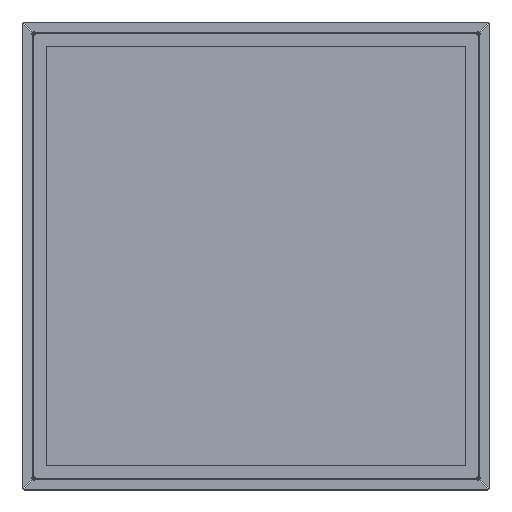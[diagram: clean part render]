
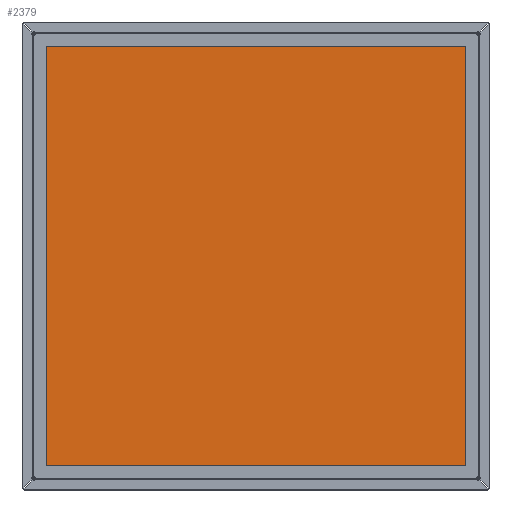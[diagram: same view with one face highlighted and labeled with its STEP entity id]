
A CAD part, top view. The second image highlights one B-rep face of the part: STEP entity #2379.
In plain terms, the highlighted planar face has unit normal (0, 0, 1).
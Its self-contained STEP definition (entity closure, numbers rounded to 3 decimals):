
#235=FACE_OUTER_BOUND('',#393,.T.);
#393=EDGE_LOOP('',(#1765,#1766,#1767,#1768));
#587=LINE('',#4427,#833);
#590=LINE('',#4433,#836);
#593=LINE('',#4439,#839);
#596=LINE('',#4443,#842);
#833=VECTOR('',#2904,10.);
#836=VECTOR('',#2909,10.);
#839=VECTOR('',#2914,10.);
#842=VECTOR('',#2919,10.);
#1061=VERTEX_POINT('',#4424);
#1062=VERTEX_POINT('',#4426);
#1064=VERTEX_POINT('',#4432);
#1066=VERTEX_POINT('',#4438);
#1299=EDGE_CURVE('',#1062,#1061,#587,.T.);
#1302=EDGE_CURVE('',#1064,#1062,#590,.T.);
#1305=EDGE_CURVE('',#1066,#1064,#593,.T.);
#1308=EDGE_CURVE('',#1061,#1066,#596,.T.);
#1765=ORIENTED_EDGE('',*,*,#1308,.T.);
#1766=ORIENTED_EDGE('',*,*,#1305,.T.);
#1767=ORIENTED_EDGE('',*,*,#1302,.T.);
#1768=ORIENTED_EDGE('',*,*,#1299,.T.);
#2276=PLANE('',#2542);
#2379=ADVANCED_FACE('',(#235),#2276,.T.);
#2542=AXIS2_PLACEMENT_3D('',#4444,#2920,#2921);
#2904=DIRECTION('',(0.,-1.,0.));
#2909=DIRECTION('',(-1.,0.,0.));
#2914=DIRECTION('',(0.,1.,0.));
#2919=DIRECTION('',(1.,0.,0.));
#2920=DIRECTION('center_axis',(0.,0.,1.));
#2921=DIRECTION('ref_axis',(0.,-1.,0.));
#4424=CARTESIAN_POINT('',(3479.488,993.972,68.4));
#4426=CARTESIAN_POINT('',(3479.488,1590.972,68.4));
#4427=CARTESIAN_POINT('',(3479.488,993.972,68.4));
#4432=CARTESIAN_POINT('',(4076.488,1590.972,68.4));
#4433=CARTESIAN_POINT('',(3479.488,1590.972,68.4));
#4438=CARTESIAN_POINT('',(4076.488,993.972,68.4));
#4439=CARTESIAN_POINT('',(4076.488,1590.972,68.4));
#4443=CARTESIAN_POINT('',(4076.488,993.972,68.4));
#4444=CARTESIAN_POINT('Origin',(3777.988,1292.472,68.4));
